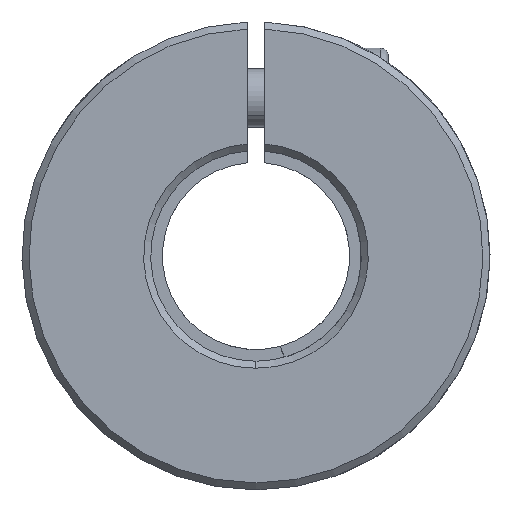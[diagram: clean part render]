
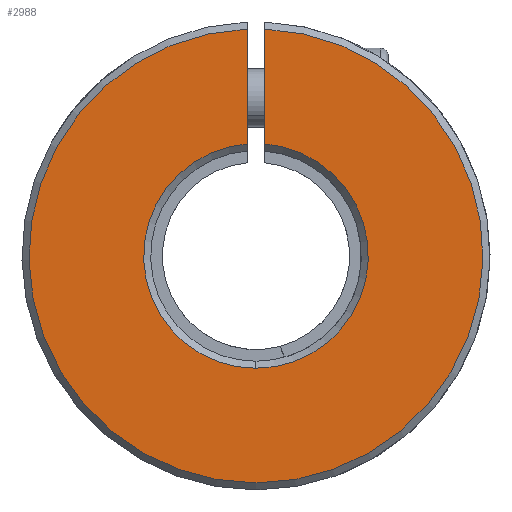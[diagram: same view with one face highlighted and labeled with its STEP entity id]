
A CAD part, front view. The second image highlights one B-rep face of the part: STEP entity #2988.
In plain terms, the highlighted planar face has unit normal (0, -1, 0).
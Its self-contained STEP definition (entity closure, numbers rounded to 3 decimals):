
#120 = VERTEX_POINT ( 'NONE', #1364 ) ;
#143 = DIRECTION ( 'NONE',  ( 0., 0., 1. ) ) ;
#265 = VECTOR ( 'NONE', #143, 1000. ) ;
#395 = CARTESIAN_POINT ( 'NONE',  ( 0.75, -25., 9.571 ) ) ;
#513 = DIRECTION ( 'NONE',  ( 0., 0., 1. ) ) ;
#590 = VERTEX_POINT ( 'NONE', #4409 ) ;
#614 = DIRECTION ( 'NONE',  ( 0., 1., 0. ) ) ;
#1061 = DIRECTION ( 'NONE',  ( 0., 0., 1. ) ) ;
#1186 = DIRECTION ( 'NONE',  ( 0., 0., -1. ) ) ;
#1212 = DIRECTION ( 'NONE',  ( 0., 0., 1. ) ) ;
#1218 = AXIS2_PLACEMENT_3D ( 'NONE', #4102, #614, #1061 ) ;
#1364 = CARTESIAN_POINT ( 'NONE',  ( -0.75, -25., 9.571 ) ) ;
#1433 = CARTESIAN_POINT ( 'NONE',  ( 0.75, -25., 19.385 ) ) ;
#1524 = DIRECTION ( 'NONE',  ( 0., 1., 0. ) ) ;
#1717 = EDGE_CURVE ( 'NONE', #120, #590, #2205, .T. ) ;
#1807 = ORIENTED_EDGE ( 'NONE', *, *, #2903, .T. ) ;
#1850 = AXIS2_PLACEMENT_3D ( 'NONE', #3663, #4549, #513 ) ;
#1952 = VERTEX_POINT ( 'NONE', #1433 ) ;
#1987 = EDGE_LOOP ( 'NONE', ( #5591, #1807, #3272, #3384, #5117 ) ) ;
#2039 = LINE ( 'NONE', #3829, #5250 ) ;
#2205 = LINE ( 'NONE', #5054, #265 ) ;
#2243 = AXIS2_PLACEMENT_3D ( 'NONE', #2990, #5184, #1212 ) ;
#2903 = EDGE_CURVE ( 'NONE', #4689, #4219, #4426, .T. ) ;
#2988 = ADVANCED_FACE ( 'NONE', ( #4167 ), #5514, .F. ) ;
#2990 = CARTESIAN_POINT ( 'NONE',  ( 0., -25., 0. ) ) ;
#3237 = CARTESIAN_POINT ( 'NONE',  ( 0., -25., 0. ) ) ;
#3272 = ORIENTED_EDGE ( 'NONE', *, *, #3359, .T. ) ;
#3359 = EDGE_CURVE ( 'NONE', #4219, #120, #4114, .T. ) ;
#3384 = ORIENTED_EDGE ( 'NONE', *, *, #1717, .T. ) ;
#3663 = CARTESIAN_POINT ( 'NONE',  ( 0., -25., 0. ) ) ;
#3829 = CARTESIAN_POINT ( 'NONE',  ( 0.75, -25., -4. ) ) ;
#4102 = CARTESIAN_POINT ( 'NONE',  ( 0., -25., 0. ) ) ;
#4114 = CIRCLE ( 'NONE', #1850, 9.6 ) ;
#4167 = FACE_OUTER_BOUND ( 'NONE', #1987, .T. ) ;
#4219 = VERTEX_POINT ( 'NONE', #5299 ) ;
#4228 = AXIS2_PLACEMENT_3D ( 'NONE', #3237, #1524, #4617 ) ;
#4409 = CARTESIAN_POINT ( 'NONE',  ( -0.75, -25., 19.385 ) ) ;
#4426 = CIRCLE ( 'NONE', #1218, 9.6 ) ;
#4549 = DIRECTION ( 'NONE',  ( 0., 1., 0. ) ) ;
#4617 = DIRECTION ( 'NONE',  ( 0., 0., 1. ) ) ;
#4689 = VERTEX_POINT ( 'NONE', #395 ) ;
#4778 = CIRCLE ( 'NONE', #2243, 19.4 ) ;
#4902 = EDGE_CURVE ( 'NONE', #1952, #4689, #2039, .T. ) ;
#4941 = EDGE_CURVE ( 'NONE', #590, #1952, #4778, .T. ) ;
#5054 = CARTESIAN_POINT ( 'NONE',  ( -0.75, -25., -4. ) ) ;
#5117 = ORIENTED_EDGE ( 'NONE', *, *, #4941, .T. ) ;
#5184 = DIRECTION ( 'NONE',  ( 0., -1., 0. ) ) ;
#5250 = VECTOR ( 'NONE', #1186, 1000. ) ;
#5299 = CARTESIAN_POINT ( 'NONE',  ( 0., -25., -9.6 ) ) ;
#5514 = PLANE ( 'NONE',  #4228 ) ;
#5591 = ORIENTED_EDGE ( 'NONE', *, *, #4902, .T. ) ;
